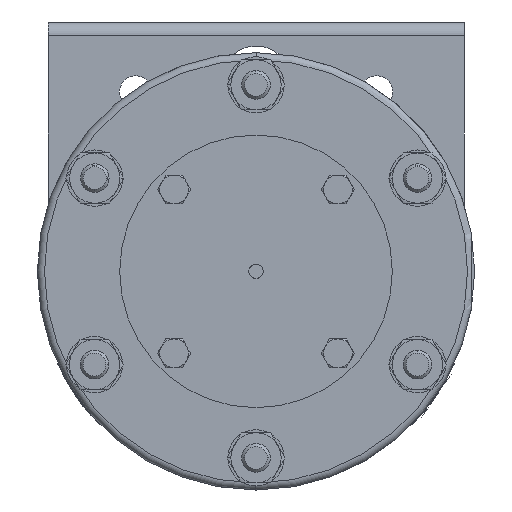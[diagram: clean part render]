
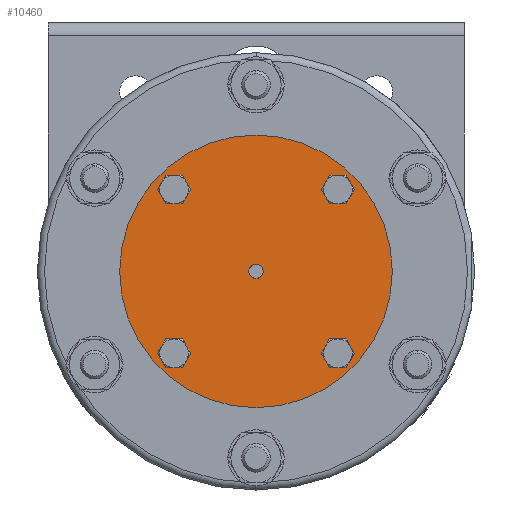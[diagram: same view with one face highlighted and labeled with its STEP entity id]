
A CAD part, front view. The second image highlights one B-rep face of the part: STEP entity #10460.
In plain terms, the highlighted planar face has unit normal (0, -1, 0).
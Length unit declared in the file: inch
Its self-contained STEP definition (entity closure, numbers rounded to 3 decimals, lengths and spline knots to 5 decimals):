
#76 = VERTEX_POINT ( 'NONE', #25129 ) ;
#82 = CIRCLE ( 'NONE', #3871, 0.0885 ) ;
#147 = AXIS2_PLACEMENT_3D ( 'NONE', #6320, #18440, #12261 ) ;
#161 = CARTESIAN_POINT ( 'NONE',  ( -0.71344, -2.312, 0.7135 ) ) ;
#226 = AXIS2_PLACEMENT_3D ( 'NONE', #8677, #22784, #16724 ) ;
#243 = DIRECTION ( 'NONE',  ( 0., 1., 0. ) ) ;
#368 = DIRECTION ( 'NONE',  ( 0., 0., -1. ) ) ;
#451 = CARTESIAN_POINT ( 'NONE',  ( 0., -2.312, 0. ) ) ;
#567 = EDGE_CURVE ( 'NONE', #76, #20920, #20745, .T. ) ;
#650 = CIRCLE ( 'NONE', #13303, 0.0885 ) ;
#1026 = CARTESIAN_POINT ( 'NONE',  ( 0.71344, -2.312, -0.7135 ) ) ;
#1192 = ORIENTED_EDGE ( 'NONE', *, *, #23763, .F. ) ;
#1770 = CIRCLE ( 'NONE', #7251, 0.0885 ) ;
#1950 = FACE_OUTER_BOUND ( 'NONE', #18227, .T. ) ;
#2209 = PLANE ( 'NONE',  #3050 ) ;
#2806 = DIRECTION ( 'NONE',  ( 0., 0., -1. ) ) ;
#3050 = AXIS2_PLACEMENT_3D ( 'NONE', #8131, #21983, #368 ) ;
#3287 = VERTEX_POINT ( 'NONE', #7233 ) ;
#3362 = AXIS2_PLACEMENT_3D ( 'NONE', #161, #8182, #13857 ) ;
#3454 = VERTEX_POINT ( 'NONE', #16042 ) ;
#3559 = AXIS2_PLACEMENT_3D ( 'NONE', #451, #14811, #6504 ) ;
#3574 = EDGE_CURVE ( 'NONE', #15516, #15515, #21691, .T. ) ;
#3665 = CARTESIAN_POINT ( 'NONE',  ( 0., -2.312, 0. ) ) ;
#3668 = CARTESIAN_POINT ( 'NONE',  ( -0.71344, -2.312, 0.802 ) ) ;
#3871 = AXIS2_PLACEMENT_3D ( 'NONE', #1026, #7204, #25134 ) ;
#4042 = EDGE_CURVE ( 'NONE', #11767, #3287, #24136, .T. ) ;
#5200 = CARTESIAN_POINT ( 'NONE',  ( -0.71344, -2.312, -0.802 ) ) ;
#5248 = CARTESIAN_POINT ( 'NONE',  ( 0.71344, -2.312, 0.625 ) ) ;
#5378 = EDGE_LOOP ( 'NONE', ( #12372, #12522 ) ) ;
#5796 = ORIENTED_EDGE ( 'NONE', *, *, #3574, .F. ) ;
#6176 = ORIENTED_EDGE ( 'NONE', *, *, #4042, .F. ) ;
#6320 = CARTESIAN_POINT ( 'NONE',  ( -0.71344, -2.312, -0.7135 ) ) ;
#6504 = DIRECTION ( 'NONE',  ( 0., 0., 1. ) ) ;
#7204 = DIRECTION ( 'NONE',  ( 0., -1., 0. ) ) ;
#7233 = CARTESIAN_POINT ( 'NONE',  ( 0.71344, -2.312, 0.802 ) ) ;
#7251 = AXIS2_PLACEMENT_3D ( 'NONE', #20533, #24613, #19082 ) ;
#7456 = EDGE_CURVE ( 'NONE', #3454, #25684, #24612, .T. ) ;
#7492 = DIRECTION ( 'NONE',  ( 0., 0., -1. ) ) ;
#8131 = CARTESIAN_POINT ( 'NONE',  ( 0., -2.312, 0. ) ) ;
#8143 = ORIENTED_EDGE ( 'NONE', *, *, #25944, .F. ) ;
#8182 = DIRECTION ( 'NONE',  ( 0., -1., 0. ) ) ;
#8260 = DIRECTION ( 'NONE',  ( 0., 0., -1. ) ) ;
#8435 = VERTEX_POINT ( 'NONE', #17267 ) ;
#8677 = CARTESIAN_POINT ( 'NONE',  ( 0., -2.312, 0. ) ) ;
#8985 = AXIS2_PLACEMENT_3D ( 'NONE', #9144, #17183, #21295 ) ;
#9144 = CARTESIAN_POINT ( 'NONE',  ( 0.71344, -2.312, 0.7135 ) ) ;
#9844 = FACE_BOUND ( 'NONE', #5378, .T. ) ;
#10056 = EDGE_CURVE ( 'NONE', #18621, #8435, #14892, .T. ) ;
#10108 = EDGE_LOOP ( 'NONE', ( #16438, #6176 ) ) ;
#10168 = DIRECTION ( 'NONE',  ( 0., 0., -1. ) ) ;
#10460 = ADVANCED_FACE ( 'NONE', ( #20004, #22372, #14336, #9844, #18285, #1950 ), #2209, .F. ) ;
#10601 = EDGE_CURVE ( 'NONE', #3287, #11767, #1770, .T. ) ;
#10644 = DIRECTION ( 'NONE',  ( 0., 0., 1. ) ) ;
#11279 = EDGE_CURVE ( 'NONE', #20083, #21927, #17457, .T. ) ;
#11767 = VERTEX_POINT ( 'NONE', #5248 ) ;
#11912 = CARTESIAN_POINT ( 'NONE',  ( 0., -2.312, -0.0625 ) ) ;
#11938 = ORIENTED_EDGE ( 'NONE', *, *, #13396, .F. ) ;
#12261 = DIRECTION ( 'NONE',  ( 0., 0., 1. ) ) ;
#12372 = ORIENTED_EDGE ( 'NONE', *, *, #15702, .F. ) ;
#12522 = ORIENTED_EDGE ( 'NONE', *, *, #567, .F. ) ;
#12630 = CIRCLE ( 'NONE', #3362, 0.0885 ) ;
#12720 = EDGE_CURVE ( 'NONE', #15515, #15516, #20398, .T. ) ;
#13303 = AXIS2_PLACEMENT_3D ( 'NONE', #22633, #18414, #10644 ) ;
#13396 = EDGE_CURVE ( 'NONE', #8435, #18621, #650, .T. ) ;
#13857 = DIRECTION ( 'NONE',  ( 0., 0., -1. ) ) ;
#14336 = FACE_BOUND ( 'NONE', #21817, .T. ) ;
#14484 = ORIENTED_EDGE ( 'NONE', *, *, #10056, .F. ) ;
#14811 = DIRECTION ( 'NONE',  ( 0., -1., 0. ) ) ;
#14892 = CIRCLE ( 'NONE', #147, 0.0885 ) ;
#14935 = CIRCLE ( 'NONE', #3559, 0.0625 ) ;
#15201 = ORIENTED_EDGE ( 'NONE', *, *, #11279, .F. ) ;
#15262 = CARTESIAN_POINT ( 'NONE',  ( -0.71344, -2.312, 0.625 ) ) ;
#15515 = VERTEX_POINT ( 'NONE', #20939 ) ;
#15516 = VERTEX_POINT ( 'NONE', #16339 ) ;
#15702 = EDGE_CURVE ( 'NONE', #20920, #76, #82, .T. ) ;
#16042 = CARTESIAN_POINT ( 'NONE',  ( 0., -2.312, 0.0625 ) ) ;
#16339 = CARTESIAN_POINT ( 'NONE',  ( 0., -2.312, 1.1875 ) ) ;
#16438 = ORIENTED_EDGE ( 'NONE', *, *, #10601, .F. ) ;
#16724 = DIRECTION ( 'NONE',  ( 0., 0., 1. ) ) ;
#17043 = CARTESIAN_POINT ( 'NONE',  ( 0.71344, -2.312, -0.802 ) ) ;
#17183 = DIRECTION ( 'NONE',  ( 0., -1., 0. ) ) ;
#17267 = CARTESIAN_POINT ( 'NONE',  ( -0.71344, -2.312, -0.625 ) ) ;
#17381 = DIRECTION ( 'NONE',  ( 0., 1., 0. ) ) ;
#17457 = CIRCLE ( 'NONE', #19543, 0.0885 ) ;
#18227 = EDGE_LOOP ( 'NONE', ( #5796, #24518 ) ) ;
#18285 = FACE_BOUND ( 'NONE', #10108, .T. ) ;
#18301 = AXIS2_PLACEMENT_3D ( 'NONE', #20406, #243, #8260 ) ;
#18414 = DIRECTION ( 'NONE',  ( 0., -1., 0. ) ) ;
#18440 = DIRECTION ( 'NONE',  ( 0., -1., 0. ) ) ;
#18621 = VERTEX_POINT ( 'NONE', #5200 ) ;
#19082 = DIRECTION ( 'NONE',  ( 0., 0., 1. ) ) ;
#19543 = AXIS2_PLACEMENT_3D ( 'NONE', #24807, #20339, #2806 ) ;
#20004 = FACE_BOUND ( 'NONE', #25475, .T. ) ;
#20083 = VERTEX_POINT ( 'NONE', #15262 ) ;
#20339 = DIRECTION ( 'NONE',  ( 0., -1., 0. ) ) ;
#20398 = CIRCLE ( 'NONE', #22978, 1.1875 ) ;
#20406 = CARTESIAN_POINT ( 'NONE',  ( 0., -2.312, 0. ) ) ;
#20533 = CARTESIAN_POINT ( 'NONE',  ( 0.71344, -2.312, 0.7135 ) ) ;
#20582 = DIRECTION ( 'NONE',  ( 0., -1., 0. ) ) ;
#20745 = CIRCLE ( 'NONE', #22399, 0.0885 ) ;
#20920 = VERTEX_POINT ( 'NONE', #17043 ) ;
#20939 = CARTESIAN_POINT ( 'NONE',  ( 0., -2.312, -1.1875 ) ) ;
#21295 = DIRECTION ( 'NONE',  ( 0., 0., 1. ) ) ;
#21342 = ORIENTED_EDGE ( 'NONE', *, *, #7456, .F. ) ;
#21691 = CIRCLE ( 'NONE', #18301, 1.1875 ) ;
#21817 = EDGE_LOOP ( 'NONE', ( #11938, #14484 ) ) ;
#21927 = VERTEX_POINT ( 'NONE', #3668 ) ;
#21983 = DIRECTION ( 'NONE',  ( 0., 1., 0. ) ) ;
#22372 = FACE_BOUND ( 'NONE', #23486, .T. ) ;
#22399 = AXIS2_PLACEMENT_3D ( 'NONE', #24132, #20582, #10168 ) ;
#22633 = CARTESIAN_POINT ( 'NONE',  ( -0.71344, -2.312, -0.7135 ) ) ;
#22784 = DIRECTION ( 'NONE',  ( 0., -1., 0. ) ) ;
#22978 = AXIS2_PLACEMENT_3D ( 'NONE', #3665, #17381, #7492 ) ;
#23486 = EDGE_LOOP ( 'NONE', ( #15201, #1192 ) ) ;
#23763 = EDGE_CURVE ( 'NONE', #21927, #20083, #12630, .T. ) ;
#24132 = CARTESIAN_POINT ( 'NONE',  ( 0.71344, -2.312, -0.7135 ) ) ;
#24136 = CIRCLE ( 'NONE', #8985, 0.0885 ) ;
#24518 = ORIENTED_EDGE ( 'NONE', *, *, #12720, .F. ) ;
#24612 = CIRCLE ( 'NONE', #226, 0.0625 ) ;
#24613 = DIRECTION ( 'NONE',  ( 0., -1., 0. ) ) ;
#24807 = CARTESIAN_POINT ( 'NONE',  ( -0.71344, -2.312, 0.7135 ) ) ;
#25129 = CARTESIAN_POINT ( 'NONE',  ( 0.71344, -2.312, -0.625 ) ) ;
#25134 = DIRECTION ( 'NONE',  ( 0., 0., -1. ) ) ;
#25475 = EDGE_LOOP ( 'NONE', ( #21342, #8143 ) ) ;
#25684 = VERTEX_POINT ( 'NONE', #11912 ) ;
#25944 = EDGE_CURVE ( 'NONE', #25684, #3454, #14935, .T. ) ;
